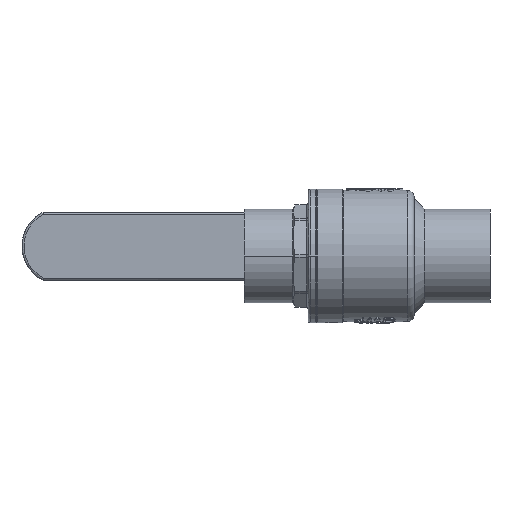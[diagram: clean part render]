
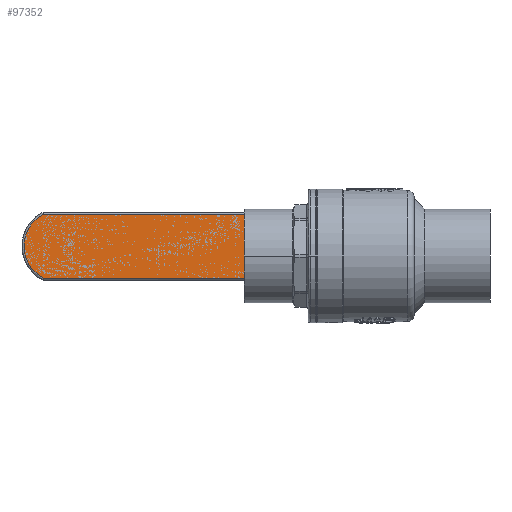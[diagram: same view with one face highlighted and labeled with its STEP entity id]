
A CAD part, front view. The second image highlights one B-rep face of the part: STEP entity #97352.
In plain terms, the highlighted planar face has unit normal (0, -1, 0).
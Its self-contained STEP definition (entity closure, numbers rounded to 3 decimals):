
#6936 = CARTESIAN_POINT ( 'NONE',  ( -18.5, -5., 0. ) ) ;
#8245 = ORIENTED_EDGE ( 'NONE', *, *, #62048, .T. ) ;
#14037 = EDGE_CURVE ( 'NONE', #56651, #50772, #107679, .T. ) ;
#19917 = CARTESIAN_POINT ( 'NONE',  ( -10.036, -5., 16.45 ) ) ;
#21497 = DIRECTION ( 'NONE',  ( 0., 0., 1. ) ) ;
#26355 = VECTOR ( 'NONE', #41622, 1000. ) ;
#28727 = FACE_OUTER_BOUND ( 'NONE', #83541, .T. ) ;
#33697 = AXIS2_PLACEMENT_3D ( 'NONE', #126103, #39651, #140585 ) ;
#36313 = DIRECTION ( 'NONE',  ( 0., 0., -1. ) ) ;
#39651 = DIRECTION ( 'NONE',  ( 0., 1., 0. ) ) ;
#41622 = DIRECTION ( 'NONE',  ( 1., 0., 0. ) ) ;
#42514 = LINE ( 'NONE', #105531, #144024 ) ;
#50772 = VERTEX_POINT ( 'NONE', #71945 ) ;
#56167 = CARTESIAN_POINT ( 'NONE',  ( -124., -5., -16.45 ) ) ;
#56651 = VERTEX_POINT ( 'NONE', #68775 ) ;
#62048 = EDGE_CURVE ( 'NONE', #50772, #139654, #118370, .T. ) ;
#66339 = CARTESIAN_POINT ( 'NONE',  ( -123.134, -5., 16.45 ) ) ;
#68041 = VECTOR ( 'NONE', #36313, 1000. ) ;
#68060 = PLANE ( 'NONE',  #33697 ) ;
#68775 = CARTESIAN_POINT ( 'NONE',  ( -123.134, -5., -16.45 ) ) ;
#71945 = CARTESIAN_POINT ( 'NONE',  ( -10.036, -5., -16.45 ) ) ;
#77319 = EDGE_CURVE ( 'NONE', #128358, #56651, #178577, .T. ) ;
#83541 = EDGE_LOOP ( 'NONE', ( #184780, #164079, #8245, #122762 ) ) ;
#97352 = ADVANCED_FACE ( 'NONE', ( #28727 ), #68060, .F. ) ;
#105531 = CARTESIAN_POINT ( 'NONE',  ( -123.567, -5., 16.45 ) ) ;
#107679 = LINE ( 'NONE', #56167, #26355 ) ;
#107997 = DIRECTION ( 'NONE',  ( 0., -1., 0. ) ) ;
#118370 = CIRCLE ( 'NONE', #121016, 18.5 ) ;
#121016 = AXIS2_PLACEMENT_3D ( 'NONE', #6936, #107997, #21497 ) ;
#122762 = ORIENTED_EDGE ( 'NONE', *, *, #154565, .T. ) ;
#122803 = CARTESIAN_POINT ( 'NONE',  ( -123.134, -5., -17.45 ) ) ;
#126103 = CARTESIAN_POINT ( 'NONE',  ( -124., -5., 16.45 ) ) ;
#128358 = VERTEX_POINT ( 'NONE', #66339 ) ;
#139654 = VERTEX_POINT ( 'NONE', #19917 ) ;
#140585 = DIRECTION ( 'NONE',  ( 0., 0., 1. ) ) ;
#144024 = VECTOR ( 'NONE', #177999, 1000. ) ;
#154565 = EDGE_CURVE ( 'NONE', #139654, #128358, #42514, .T. ) ;
#164079 = ORIENTED_EDGE ( 'NONE', *, *, #14037, .T. ) ;
#177999 = DIRECTION ( 'NONE',  ( -1., 0., 0. ) ) ;
#178577 = LINE ( 'NONE', #122803, #68041 ) ;
#184780 = ORIENTED_EDGE ( 'NONE', *, *, #77319, .T. ) ;
